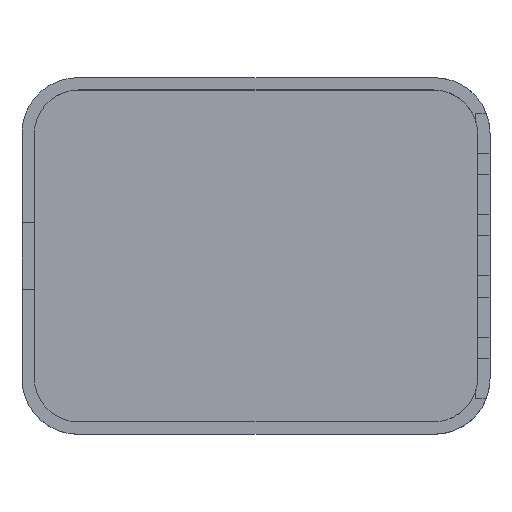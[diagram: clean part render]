
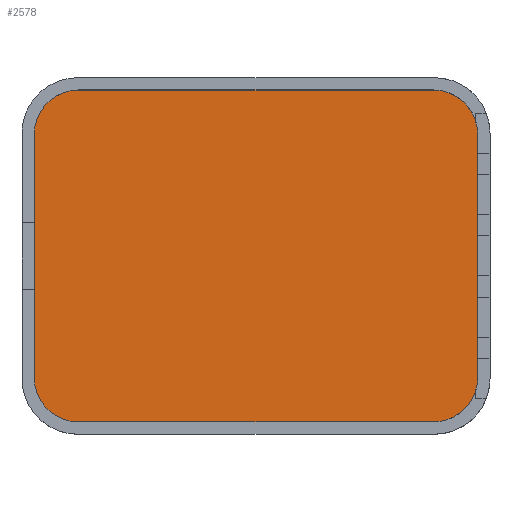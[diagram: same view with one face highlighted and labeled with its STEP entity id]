
A CAD part, top view. The second image highlights one B-rep face of the part: STEP entity #2578.
In plain terms, the highlighted planar face has unit normal (0, 0, 1).
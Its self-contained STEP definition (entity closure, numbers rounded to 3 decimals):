
#463 = CYLINDRICAL_SURFACE('',#464,4.);
#464 = AXIS2_PLACEMENT_3D('',#465,#466,#467);
#465 = CARTESIAN_POINT('',(15.9,-10.9,1.4));
#466 = DIRECTION('',(0.,0.,1.));
#467 = DIRECTION('',(1.,0.,-0.));
#490 = PLANE('',#491);
#491 = AXIS2_PLACEMENT_3D('',#492,#493,#494);
#492 = CARTESIAN_POINT('',(-19.9,-14.9,1.4));
#493 = DIRECTION('',(0.,1.,0.));
#494 = DIRECTION('',(0.,0.,1.));
#518 = CYLINDRICAL_SURFACE('',#519,4.);
#519 = AXIS2_PLACEMENT_3D('',#520,#521,#522);
#520 = CARTESIAN_POINT('',(-15.9,-10.9,1.4));
#521 = DIRECTION('',(0.,0.,1.));
#522 = DIRECTION('',(-1.,-0.,0.));
#545 = PLANE('',#546);
#546 = AXIS2_PLACEMENT_3D('',#547,#548,#549);
#547 = CARTESIAN_POINT('',(-19.9,-14.9,1.4));
#548 = DIRECTION('',(1.,0.,0.));
#549 = DIRECTION('',(0.,0.,1.));
#757 = CYLINDRICAL_SURFACE('',#758,4.);
#758 = AXIS2_PLACEMENT_3D('',#759,#760,#761);
#759 = CARTESIAN_POINT('',(-15.9,10.9,1.4));
#760 = DIRECTION('',(0.,0.,1.));
#761 = DIRECTION('',(-1.,-0.,0.));
#784 = PLANE('',#785);
#785 = AXIS2_PLACEMENT_3D('',#786,#787,#788);
#786 = CARTESIAN_POINT('',(-19.9,14.9,1.4));
#787 = DIRECTION('',(0.,1.,0.));
#788 = DIRECTION('',(0.,0.,1.));
#812 = CYLINDRICAL_SURFACE('',#813,4.);
#813 = AXIS2_PLACEMENT_3D('',#814,#815,#816);
#814 = CARTESIAN_POINT('',(15.9,10.9,1.4));
#815 = DIRECTION('',(0.,0.,1.));
#816 = DIRECTION('',(1.,0.,-0.));
#1297 = VERTEX_POINT('',#1298);
#1298 = CARTESIAN_POINT('',(-19.9,-10.9,1.4));
#1319 = EDGE_CURVE('',#1297,#1320,#1322,.T.);
#1320 = VERTEX_POINT('',#1321);
#1321 = CARTESIAN_POINT('',(-19.9,10.9,1.4));
#1322 = SURFACE_CURVE('',#1323,(#1327,#1334),.PCURVE_S1.);
#1323 = LINE('',#1324,#1325);
#1324 = CARTESIAN_POINT('',(-19.9,-14.9,1.4));
#1325 = VECTOR('',#1326,1.);
#1326 = DIRECTION('',(0.,1.,0.));
#1327 = PCURVE('',#545,#1328);
#1328 = DEFINITIONAL_REPRESENTATION('',(#1329),#1333);
#1329 = LINE('',#1330,#1331);
#1330 = CARTESIAN_POINT('',(0.,0.));
#1331 = VECTOR('',#1332,1.);
#1332 = DIRECTION('',(0.,-1.));
#1333 = ( GEOMETRIC_REPRESENTATION_CONTEXT(2) 
PARAMETRIC_REPRESENTATION_CONTEXT() REPRESENTATION_CONTEXT('2D SPACE',''
  ) );
#1334 = PCURVE('',#1335,#1340);
#1335 = PLANE('',#1336);
#1336 = AXIS2_PLACEMENT_3D('',#1337,#1338,#1339);
#1337 = CARTESIAN_POINT('',(-19.9,-14.9,1.4));
#1338 = DIRECTION('',(0.,0.,1.));
#1339 = DIRECTION('',(1.,0.,0.));
#1340 = DEFINITIONAL_REPRESENTATION('',(#1341),#1345);
#1341 = LINE('',#1342,#1343);
#1342 = CARTESIAN_POINT('',(0.,0.));
#1343 = VECTOR('',#1344,1.);
#1344 = DIRECTION('',(0.,1.));
#1345 = ( GEOMETRIC_REPRESENTATION_CONTEXT(2) 
PARAMETRIC_REPRESENTATION_CONTEXT() REPRESENTATION_CONTEXT('2D SPACE',''
  ) );
#1376 = EDGE_CURVE('',#1297,#1377,#1379,.T.);
#1377 = VERTEX_POINT('',#1378);
#1378 = CARTESIAN_POINT('',(-15.9,-14.9,1.4));
#1379 = SURFACE_CURVE('',#1380,(#1385,#1392),.PCURVE_S1.);
#1380 = CIRCLE('',#1381,4.);
#1381 = AXIS2_PLACEMENT_3D('',#1382,#1383,#1384);
#1382 = CARTESIAN_POINT('',(-15.9,-10.9,1.4));
#1383 = DIRECTION('',(0.,0.,1.));
#1384 = DIRECTION('',(0.,-1.,0.));
#1385 = PCURVE('',#518,#1386);
#1386 = DEFINITIONAL_REPRESENTATION('',(#1387),#1391);
#1387 = LINE('',#1388,#1389);
#1388 = CARTESIAN_POINT('',(-4.712,0.));
#1389 = VECTOR('',#1390,1.);
#1390 = DIRECTION('',(1.,0.));
#1391 = ( GEOMETRIC_REPRESENTATION_CONTEXT(2) 
PARAMETRIC_REPRESENTATION_CONTEXT() REPRESENTATION_CONTEXT('2D SPACE',''
  ) );
#1392 = PCURVE('',#1335,#1393);
#1393 = DEFINITIONAL_REPRESENTATION('',(#1394),#1398);
#1394 = CIRCLE('',#1395,4.);
#1395 = AXIS2_PLACEMENT_2D('',#1396,#1397);
#1396 = CARTESIAN_POINT('',(4.,4.));
#1397 = DIRECTION('',(0.,-1.));
#1398 = ( GEOMETRIC_REPRESENTATION_CONTEXT(2) 
PARAMETRIC_REPRESENTATION_CONTEXT() REPRESENTATION_CONTEXT('2D SPACE',''
  ) );
#1425 = EDGE_CURVE('',#1377,#1426,#1428,.T.);
#1426 = VERTEX_POINT('',#1427);
#1427 = CARTESIAN_POINT('',(15.9,-14.9,1.4));
#1428 = SURFACE_CURVE('',#1429,(#1433,#1440),.PCURVE_S1.);
#1429 = LINE('',#1430,#1431);
#1430 = CARTESIAN_POINT('',(-19.9,-14.9,1.4));
#1431 = VECTOR('',#1432,1.);
#1432 = DIRECTION('',(1.,0.,0.));
#1433 = PCURVE('',#490,#1434);
#1434 = DEFINITIONAL_REPRESENTATION('',(#1435),#1439);
#1435 = LINE('',#1436,#1437);
#1436 = CARTESIAN_POINT('',(0.,0.));
#1437 = VECTOR('',#1438,1.);
#1438 = DIRECTION('',(0.,1.));
#1439 = ( GEOMETRIC_REPRESENTATION_CONTEXT(2) 
PARAMETRIC_REPRESENTATION_CONTEXT() REPRESENTATION_CONTEXT('2D SPACE',''
  ) );
#1440 = PCURVE('',#1335,#1441);
#1441 = DEFINITIONAL_REPRESENTATION('',(#1442),#1446);
#1442 = LINE('',#1443,#1444);
#1443 = CARTESIAN_POINT('',(0.,0.));
#1444 = VECTOR('',#1445,1.);
#1445 = DIRECTION('',(1.,0.));
#1446 = ( GEOMETRIC_REPRESENTATION_CONTEXT(2) 
PARAMETRIC_REPRESENTATION_CONTEXT() REPRESENTATION_CONTEXT('2D SPACE',''
  ) );
#1475 = VERTEX_POINT('',#1476);
#1476 = CARTESIAN_POINT('',(19.9,-10.9,1.4));
#1492 = PLANE('',#1493);
#1493 = AXIS2_PLACEMENT_3D('',#1494,#1495,#1496);
#1494 = CARTESIAN_POINT('',(19.9,-14.9,1.4));
#1495 = DIRECTION('',(1.,0.,0.));
#1496 = DIRECTION('',(0.,0.,1.));
#1504 = EDGE_CURVE('',#1475,#1426,#1505,.T.);
#1505 = SURFACE_CURVE('',#1506,(#1511,#1518),.PCURVE_S1.);
#1506 = CIRCLE('',#1507,4.);
#1507 = AXIS2_PLACEMENT_3D('',#1508,#1509,#1510);
#1508 = CARTESIAN_POINT('',(15.9,-10.9,1.4));
#1509 = DIRECTION('',(-0.,-0.,-1.));
#1510 = DIRECTION('',(0.,-1.,0.));
#1511 = PCURVE('',#463,#1512);
#1512 = DEFINITIONAL_REPRESENTATION('',(#1513),#1517);
#1513 = LINE('',#1514,#1515);
#1514 = CARTESIAN_POINT('',(4.712,-0.));
#1515 = VECTOR('',#1516,1.);
#1516 = DIRECTION('',(-1.,0.));
#1517 = ( GEOMETRIC_REPRESENTATION_CONTEXT(2) 
PARAMETRIC_REPRESENTATION_CONTEXT() REPRESENTATION_CONTEXT('2D SPACE',''
  ) );
#1518 = PCURVE('',#1335,#1519);
#1519 = DEFINITIONAL_REPRESENTATION('',(#1520),#1528);
#1520 = ( BOUNDED_CURVE() B_SPLINE_CURVE(2,(#1521,#1522,#1523,#1524,
#1525,#1526,#1527),.UNSPECIFIED.,.T.,.F.) B_SPLINE_CURVE_WITH_KNOTS((1,2
    ,2,2,2,1),(-2.094,0.,2.094,4.189,
6.283,8.378),.UNSPECIFIED.) CURVE() 
GEOMETRIC_REPRESENTATION_ITEM() RATIONAL_B_SPLINE_CURVE((1.,0.5,1.,0.5,
1.,0.5,1.)) REPRESENTATION_ITEM('') );
#1521 = CARTESIAN_POINT('',(35.8,0.));
#1522 = CARTESIAN_POINT('',(28.872,0.));
#1523 = CARTESIAN_POINT('',(32.336,6.));
#1524 = CARTESIAN_POINT('',(35.8,12.));
#1525 = CARTESIAN_POINT('',(39.264,6.));
#1526 = CARTESIAN_POINT('',(42.728,0.));
#1527 = CARTESIAN_POINT('',(35.8,0.));
#1528 = ( GEOMETRIC_REPRESENTATION_CONTEXT(2) 
PARAMETRIC_REPRESENTATION_CONTEXT() REPRESENTATION_CONTEXT('2D SPACE',''
  ) );
#1959 = VERTEX_POINT('',#1960);
#1960 = CARTESIAN_POINT('',(19.9,10.9,1.4));
#1983 = EDGE_CURVE('',#1959,#1984,#1986,.T.);
#1984 = VERTEX_POINT('',#1985);
#1985 = CARTESIAN_POINT('',(15.9,14.9,1.4));
#1986 = SURFACE_CURVE('',#1987,(#1992,#1999),.PCURVE_S1.);
#1987 = CIRCLE('',#1988,4.);
#1988 = AXIS2_PLACEMENT_3D('',#1989,#1990,#1991);
#1989 = CARTESIAN_POINT('',(15.9,10.9,1.4));
#1990 = DIRECTION('',(0.,0.,1.));
#1991 = DIRECTION('',(0.,-1.,0.));
#1992 = PCURVE('',#812,#1993);
#1993 = DEFINITIONAL_REPRESENTATION('',(#1994),#1998);
#1994 = LINE('',#1995,#1996);
#1995 = CARTESIAN_POINT('',(-1.571,0.));
#1996 = VECTOR('',#1997,1.);
#1997 = DIRECTION('',(1.,0.));
#1998 = ( GEOMETRIC_REPRESENTATION_CONTEXT(2) 
PARAMETRIC_REPRESENTATION_CONTEXT() REPRESENTATION_CONTEXT('2D SPACE',''
  ) );
#1999 = PCURVE('',#1335,#2000);
#2000 = DEFINITIONAL_REPRESENTATION('',(#2001),#2005);
#2001 = CIRCLE('',#2002,4.);
#2002 = AXIS2_PLACEMENT_2D('',#2003,#2004);
#2003 = CARTESIAN_POINT('',(35.8,25.8));
#2004 = DIRECTION('',(0.,-1.));
#2005 = ( GEOMETRIC_REPRESENTATION_CONTEXT(2) 
PARAMETRIC_REPRESENTATION_CONTEXT() REPRESENTATION_CONTEXT('2D SPACE',''
  ) );
#2055 = EDGE_CURVE('',#2056,#1984,#2058,.T.);
#2056 = VERTEX_POINT('',#2057);
#2057 = CARTESIAN_POINT('',(-15.9,14.9,1.4));
#2058 = SURFACE_CURVE('',#2059,(#2063,#2070),.PCURVE_S1.);
#2059 = LINE('',#2060,#2061);
#2060 = CARTESIAN_POINT('',(-19.9,14.9,1.4));
#2061 = VECTOR('',#2062,1.);
#2062 = DIRECTION('',(1.,0.,0.));
#2063 = PCURVE('',#784,#2064);
#2064 = DEFINITIONAL_REPRESENTATION('',(#2065),#2069);
#2065 = LINE('',#2066,#2067);
#2066 = CARTESIAN_POINT('',(0.,0.));
#2067 = VECTOR('',#2068,1.);
#2068 = DIRECTION('',(0.,1.));
#2069 = ( GEOMETRIC_REPRESENTATION_CONTEXT(2) 
PARAMETRIC_REPRESENTATION_CONTEXT() REPRESENTATION_CONTEXT('2D SPACE',''
  ) );
#2070 = PCURVE('',#1335,#2071);
#2071 = DEFINITIONAL_REPRESENTATION('',(#2072),#2076);
#2072 = LINE('',#2073,#2074);
#2073 = CARTESIAN_POINT('',(0.,29.8));
#2074 = VECTOR('',#2075,1.);
#2075 = DIRECTION('',(1.,0.));
#2076 = ( GEOMETRIC_REPRESENTATION_CONTEXT(2) 
PARAMETRIC_REPRESENTATION_CONTEXT() REPRESENTATION_CONTEXT('2D SPACE',''
  ) );
#2105 = EDGE_CURVE('',#1320,#2056,#2106,.T.);
#2106 = SURFACE_CURVE('',#2107,(#2112,#2119),.PCURVE_S1.);
#2107 = CIRCLE('',#2108,4.);
#2108 = AXIS2_PLACEMENT_3D('',#2109,#2110,#2111);
#2109 = CARTESIAN_POINT('',(-15.9,10.9,1.4));
#2110 = DIRECTION('',(-0.,-0.,-1.));
#2111 = DIRECTION('',(0.,-1.,0.));
#2112 = PCURVE('',#757,#2113);
#2113 = DEFINITIONAL_REPRESENTATION('',(#2114),#2118);
#2114 = LINE('',#2115,#2116);
#2115 = CARTESIAN_POINT('',(1.571,-0.));
#2116 = VECTOR('',#2117,1.);
#2117 = DIRECTION('',(-1.,0.));
#2118 = ( GEOMETRIC_REPRESENTATION_CONTEXT(2) 
PARAMETRIC_REPRESENTATION_CONTEXT() REPRESENTATION_CONTEXT('2D SPACE',''
  ) );
#2119 = PCURVE('',#1335,#2120);
#2120 = DEFINITIONAL_REPRESENTATION('',(#2121),#2129);
#2121 = ( BOUNDED_CURVE() B_SPLINE_CURVE(2,(#2122,#2123,#2124,#2125,
#2126,#2127,#2128),.UNSPECIFIED.,.T.,.F.) B_SPLINE_CURVE_WITH_KNOTS((1,2
    ,2,2,2,1),(-2.094,0.,2.094,4.189,
6.283,8.378),.UNSPECIFIED.) CURVE() 
GEOMETRIC_REPRESENTATION_ITEM() RATIONAL_B_SPLINE_CURVE((1.,0.5,1.,0.5,
1.,0.5,1.)) REPRESENTATION_ITEM('') );
#2122 = CARTESIAN_POINT('',(4.,21.8));
#2123 = CARTESIAN_POINT('',(-2.928,21.8));
#2124 = CARTESIAN_POINT('',(0.536,27.8));
#2125 = CARTESIAN_POINT('',(4.,33.8));
#2126 = CARTESIAN_POINT('',(7.464,27.8));
#2127 = CARTESIAN_POINT('',(10.928,21.8));
#2128 = CARTESIAN_POINT('',(4.,21.8));
#2129 = ( GEOMETRIC_REPRESENTATION_CONTEXT(2) 
PARAMETRIC_REPRESENTATION_CONTEXT() REPRESENTATION_CONTEXT('2D SPACE',''
  ) );
#2578 = ADVANCED_FACE('',(#2579),#1335,.T.);
#2579 = FACE_BOUND('',#2580,.T.);
#2580 = EDGE_LOOP('',(#2581,#2582,#2583,#2584,#2585,#2606,#2607,#2608));
#2581 = ORIENTED_EDGE('',*,*,#1319,.F.);
#2582 = ORIENTED_EDGE('',*,*,#1376,.T.);
#2583 = ORIENTED_EDGE('',*,*,#1425,.T.);
#2584 = ORIENTED_EDGE('',*,*,#1504,.F.);
#2585 = ORIENTED_EDGE('',*,*,#2586,.T.);
#2586 = EDGE_CURVE('',#1475,#1959,#2587,.T.);
#2587 = SURFACE_CURVE('',#2588,(#2592,#2599),.PCURVE_S1.);
#2588 = LINE('',#2589,#2590);
#2589 = CARTESIAN_POINT('',(19.9,-14.9,1.4));
#2590 = VECTOR('',#2591,1.);
#2591 = DIRECTION('',(0.,1.,0.));
#2592 = PCURVE('',#1335,#2593);
#2593 = DEFINITIONAL_REPRESENTATION('',(#2594),#2598);
#2594 = LINE('',#2595,#2596);
#2595 = CARTESIAN_POINT('',(39.8,0.));
#2596 = VECTOR('',#2597,1.);
#2597 = DIRECTION('',(0.,1.));
#2598 = ( GEOMETRIC_REPRESENTATION_CONTEXT(2) 
PARAMETRIC_REPRESENTATION_CONTEXT() REPRESENTATION_CONTEXT('2D SPACE',''
  ) );
#2599 = PCURVE('',#1492,#2600);
#2600 = DEFINITIONAL_REPRESENTATION('',(#2601),#2605);
#2601 = LINE('',#2602,#2603);
#2602 = CARTESIAN_POINT('',(0.,0.));
#2603 = VECTOR('',#2604,1.);
#2604 = DIRECTION('',(0.,-1.));
#2605 = ( GEOMETRIC_REPRESENTATION_CONTEXT(2) 
PARAMETRIC_REPRESENTATION_CONTEXT() REPRESENTATION_CONTEXT('2D SPACE',''
  ) );
#2606 = ORIENTED_EDGE('',*,*,#1983,.T.);
#2607 = ORIENTED_EDGE('',*,*,#2055,.F.);
#2608 = ORIENTED_EDGE('',*,*,#2105,.F.);
